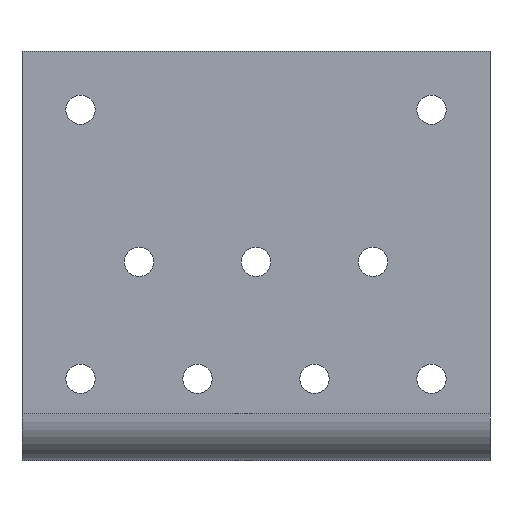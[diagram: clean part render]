
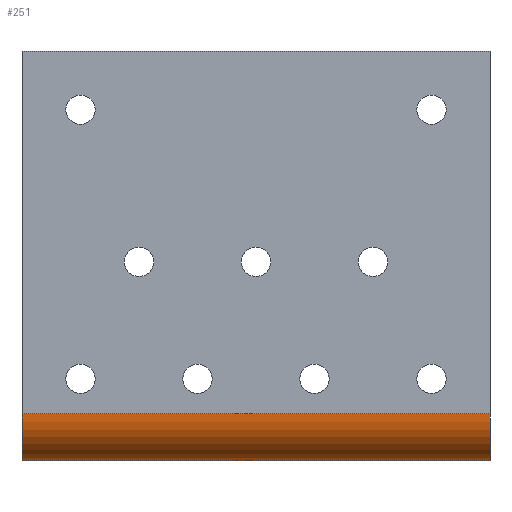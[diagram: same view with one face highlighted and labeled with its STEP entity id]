
A CAD part, front view. The second image highlights one B-rep face of the part: STEP entity #251.
In plain terms, the highlighted cylindrical face has radius 8 mm (diameter 16 mm), a partial arc.
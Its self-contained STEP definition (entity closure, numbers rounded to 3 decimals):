
#45 = LINE ( 'NONE', #1090, #1115 ) ;
#98 = DIRECTION ( 'NONE',  ( 1., 0., 0. ) ) ;
#121 = CIRCLE ( 'NONE', #1753, 8. ) ;
#123 = ORIENTED_EDGE ( 'NONE', *, *, #1212, .T. ) ;
#150 = EDGE_CURVE ( 'NONE', #409, #388, #1734, .T. ) ;
#236 = EDGE_LOOP ( 'NONE', ( #123, #746, #1598, #1354 ) ) ;
#251 = ADVANCED_FACE ( 'NONE', ( #511 ), #985, .T. ) ;
#388 = VERTEX_POINT ( 'NONE', #1727 ) ;
#409 = VERTEX_POINT ( 'NONE', #1194 ) ;
#481 = EDGE_CURVE ( 'NONE', #1364, #409, #121, .T. ) ;
#511 = FACE_OUTER_BOUND ( 'NONE', #236, .T. ) ;
#570 = DIRECTION ( 'NONE',  ( 0., -1., 0. ) ) ;
#576 = DIRECTION ( 'NONE',  ( 1., 0., 0. ) ) ;
#616 = AXIS2_PLACEMENT_3D ( 'NONE', #1171, #1305, #570 ) ;
#619 = CARTESIAN_POINT ( 'NONE',  ( 40., -65., -27. ) ) ;
#746 = ORIENTED_EDGE ( 'NONE', *, *, #1771, .T. ) ;
#752 = CIRCLE ( 'NONE', #616, 8. ) ;
#787 = DIRECTION ( 'NONE',  ( 0., -1., 0. ) ) ;
#794 = AXIS2_PLACEMENT_3D ( 'NONE', #1507, #576, #906 ) ;
#828 = VERTEX_POINT ( 'NONE', #1811 ) ;
#834 = CARTESIAN_POINT ( 'NONE',  ( 40., -57., -35. ) ) ;
#906 = DIRECTION ( 'NONE',  ( 0., -1., 0. ) ) ;
#985 = CYLINDRICAL_SURFACE ( 'NONE', #794, 8. ) ;
#1090 = CARTESIAN_POINT ( 'NONE',  ( 0., -65., -27. ) ) ;
#1115 = VECTOR ( 'NONE', #1513, 1000. ) ;
#1166 = DIRECTION ( 'NONE',  ( -1., 0., 0. ) ) ;
#1171 = CARTESIAN_POINT ( 'NONE',  ( -40., -57., -27. ) ) ;
#1194 = CARTESIAN_POINT ( 'NONE',  ( 40., -57., -35. ) ) ;
#1212 = EDGE_CURVE ( 'NONE', #1364, #828, #45, .T. ) ;
#1214 = VECTOR ( 'NONE', #1166, 1000. ) ;
#1305 = DIRECTION ( 'NONE',  ( 1., 0., 0. ) ) ;
#1354 = ORIENTED_EDGE ( 'NONE', *, *, #481, .F. ) ;
#1364 = VERTEX_POINT ( 'NONE', #619 ) ;
#1507 = CARTESIAN_POINT ( 'NONE',  ( 0., -57., -27. ) ) ;
#1513 = DIRECTION ( 'NONE',  ( -1., 0., 0. ) ) ;
#1598 = ORIENTED_EDGE ( 'NONE', *, *, #150, .F. ) ;
#1676 = CARTESIAN_POINT ( 'NONE',  ( 40., -57., -27. ) ) ;
#1727 = CARTESIAN_POINT ( 'NONE',  ( -40., -57., -35. ) ) ;
#1734 = LINE ( 'NONE', #834, #1214 ) ;
#1753 = AXIS2_PLACEMENT_3D ( 'NONE', #1676, #98, #787 ) ;
#1771 = EDGE_CURVE ( 'NONE', #828, #388, #752, .T. ) ;
#1811 = CARTESIAN_POINT ( 'NONE',  ( -40., -65., -27. ) ) ;
